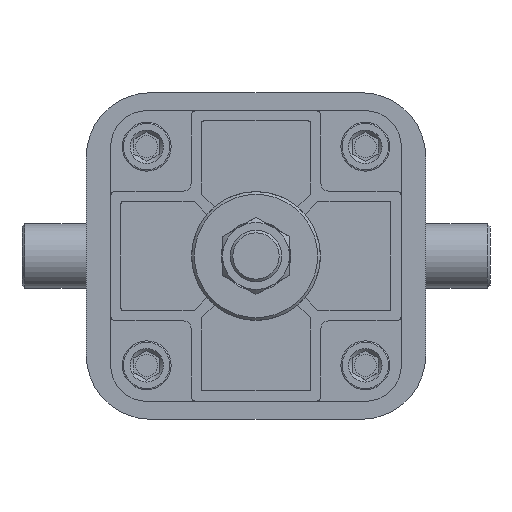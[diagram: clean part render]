
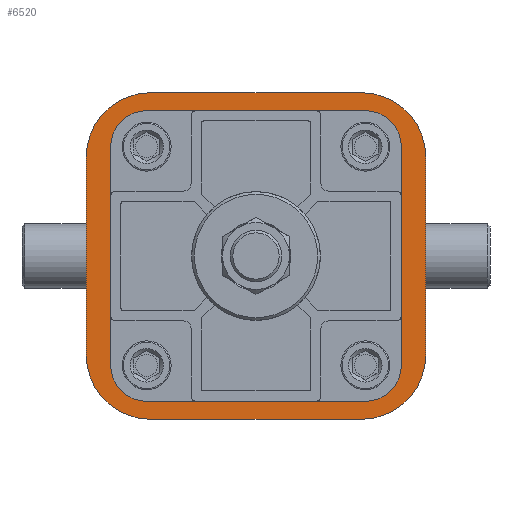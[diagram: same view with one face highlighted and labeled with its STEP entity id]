
A CAD part, front view. The second image highlights one B-rep face of the part: STEP entity #6520.
In plain terms, the highlighted planar face has unit normal (0, -1, 0).
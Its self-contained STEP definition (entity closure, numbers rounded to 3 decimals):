
#576=LINE('',#9858,#950);
#580=LINE('',#9870,#954);
#585=LINE('',#9880,#959);
#589=LINE('',#9921,#963);
#950=VECTOR('',#8373,1000.);
#954=VECTOR('',#8385,1000.);
#959=VECTOR('',#8392,1000.);
#963=VECTOR('',#8442,1000.);
#2193=ORIENTED_EDGE('',*,*,#2829,.F.);
#2194=ORIENTED_EDGE('',*,*,#2827,.F.);
#2195=ORIENTED_EDGE('',*,*,#2825,.F.);
#2196=ORIENTED_EDGE('',*,*,#2823,.F.);
#2197=ORIENTED_EDGE('',*,*,#2822,.T.);
#2198=ORIENTED_EDGE('',*,*,#2820,.F.);
#2199=ORIENTED_EDGE('',*,*,#2837,.T.);
#2200=ORIENTED_EDGE('',*,*,#2838,.F.);
#2201=ORIENTED_EDGE('',*,*,#2832,.T.);
#2202=ORIENTED_EDGE('',*,*,#2815,.F.);
#2203=ORIENTED_EDGE('',*,*,#2813,.T.);
#2204=ORIENTED_EDGE('',*,*,#2809,.F.);
#2205=ORIENTED_EDGE('',*,*,#2807,.T.);
#2807=EDGE_CURVE('',#3258,#3257,#3486,.F.);
#2809=EDGE_CURVE('',#3258,#3259,#576,.T.);
#2813=EDGE_CURVE('',#3262,#3259,#3488,.F.);
#2815=EDGE_CURVE('',#3262,#3263,#580,.T.);
#2820=EDGE_CURVE('',#3266,#3257,#585,.T.);
#2822=EDGE_CURVE('',#3268,#3268,#3490,.T.);
#2823=EDGE_CURVE('',#3269,#3269,#3491,.F.);
#2825=EDGE_CURVE('',#3271,#3271,#3493,.F.);
#2827=EDGE_CURVE('',#3273,#3273,#3495,.F.);
#2829=EDGE_CURVE('',#3275,#3275,#3497,.F.);
#2832=EDGE_CURVE('',#3278,#3263,#3500,.F.);
#2837=EDGE_CURVE('',#3266,#3280,#3502,.F.);
#2838=EDGE_CURVE('',#3278,#3280,#589,.T.);
#3257=VERTEX_POINT('',#9853);
#3258=VERTEX_POINT('',#9855);
#3259=VERTEX_POINT('',#9859);
#3262=VERTEX_POINT('',#9867);
#3263=VERTEX_POINT('',#9871);
#3266=VERTEX_POINT('',#9879);
#3268=VERTEX_POINT('',#9885);
#3269=VERTEX_POINT('',#9888);
#3271=VERTEX_POINT('',#9893);
#3273=VERTEX_POINT('',#9898);
#3275=VERTEX_POINT('',#9903);
#3278=VERTEX_POINT('',#9910);
#3280=VERTEX_POINT('',#9918);
#3486=CIRCLE('',#7027,25.);
#3488=CIRCLE('',#7031,25.);
#3490=CIRCLE('',#7036,53.5);
#3491=CIRCLE('',#7038,4.25);
#3493=CIRCLE('',#7041,4.25);
#3495=CIRCLE('',#7044,4.25);
#3497=CIRCLE('',#7047,4.25);
#3500=CIRCLE('',#7051,25.);
#3502=CIRCLE('',#7055,25.);
#3877=EDGE_LOOP('',(#2193));
#3878=EDGE_LOOP('',(#2194));
#3879=EDGE_LOOP('',(#2195));
#3880=EDGE_LOOP('',(#2196));
#3881=EDGE_LOOP('',(#2197));
#3882=EDGE_LOOP('',(#2198,#2199,#2200,#2201,#2202,#2203,#2204,#2205));
#4261=FACE_BOUND('',#3877,.T.);
#4262=FACE_BOUND('',#3878,.T.);
#4263=FACE_BOUND('',#3879,.T.);
#4264=FACE_BOUND('',#3880,.T.);
#4265=FACE_BOUND('',#3881,.T.);
#4266=FACE_BOUND('',#3882,.T.);
#4432=PLANE('',#7056);
#6520=ADVANCED_FACE('',(#4261,#4262,#4263,#4264,#4265,#4266),#4432,.F.);
#7027=AXIS2_PLACEMENT_3D('',#9854,#8368,#8369);
#7031=AXIS2_PLACEMENT_3D('',#9866,#8380,#8381);
#7036=AXIS2_PLACEMENT_3D('',#9884,#8397,#8398);
#7038=AXIS2_PLACEMENT_3D('',#9887,#8401,#8402);
#7041=AXIS2_PLACEMENT_3D('',#9892,#8407,#8408);
#7044=AXIS2_PLACEMENT_3D('',#9897,#8413,#8414);
#7047=AXIS2_PLACEMENT_3D('',#9902,#8419,#8420);
#7051=AXIS2_PLACEMENT_3D('',#9909,#8427,#8428);
#7055=AXIS2_PLACEMENT_3D('',#9919,#8438,#8439);
#7056=AXIS2_PLACEMENT_3D('',#9920,#8440,#8441);
#8368=DIRECTION('',(0.,1.,0.));
#8369=DIRECTION('',(0.,0.,1.));
#8373=DIRECTION('',(0.,0.,-1.));
#8380=DIRECTION('',(0.,1.,0.));
#8381=DIRECTION('',(0.,0.,1.));
#8385=DIRECTION('',(-1.,0.,0.));
#8392=DIRECTION('',(1.,0.,0.));
#8397=DIRECTION('',(0.,1.,0.));
#8398=DIRECTION('',(0.,0.,1.));
#8401=DIRECTION('',(0.,1.,0.));
#8402=DIRECTION('',(0.,0.,1.));
#8407=DIRECTION('',(0.,1.,0.));
#8408=DIRECTION('',(0.,0.,1.));
#8413=DIRECTION('',(0.,1.,0.));
#8414=DIRECTION('',(0.,0.,1.));
#8419=DIRECTION('',(0.,1.,0.));
#8420=DIRECTION('',(0.,0.,1.));
#8427=DIRECTION('',(0.,1.,0.));
#8428=DIRECTION('',(0.,0.,1.));
#8438=DIRECTION('',(0.,1.,0.));
#8439=DIRECTION('',(0.,0.,1.));
#8440=DIRECTION('',(0.,1.,0.));
#8441=DIRECTION('',(0.,0.,1.));
#8442=DIRECTION('',(0.,0.,1.));
#9853=CARTESIAN_POINT('',(41.,-20.,63.5));
#9854=CARTESIAN_POINT('',(41.,-20.,38.5));
#9855=CARTESIAN_POINT('',(66.,-20.,38.5));
#9858=CARTESIAN_POINT('',(66.,-20.,40.5));
#9859=CARTESIAN_POINT('',(66.,-20.,-38.5));
#9866=CARTESIAN_POINT('',(41.,-20.,-38.5));
#9867=CARTESIAN_POINT('',(41.,-20.,-63.5));
#9870=CARTESIAN_POINT('',(45.,-20.,-63.5));
#9871=CARTESIAN_POINT('',(-41.,-20.,-63.5));
#9879=CARTESIAN_POINT('',(-41.,-20.,63.5));
#9880=CARTESIAN_POINT('',(-45.,-20.,63.5));
#9884=CARTESIAN_POINT('',(0.,-20.,0.));
#9885=CARTESIAN_POINT('',(0.,-20.,53.5));
#9887=CARTESIAN_POINT('',(42.5,-20.,42.5));
#9888=CARTESIAN_POINT('',(42.5,-20.,46.75));
#9892=CARTESIAN_POINT('',(-42.5,-20.,42.5));
#9893=CARTESIAN_POINT('',(-42.5,-20.,46.75));
#9897=CARTESIAN_POINT('',(-42.5,-20.,-42.5));
#9898=CARTESIAN_POINT('',(-42.5,-20.,-38.25));
#9902=CARTESIAN_POINT('',(42.5,-20.,-42.5));
#9903=CARTESIAN_POINT('',(42.5,-20.,-38.25));
#9909=CARTESIAN_POINT('',(-41.,-20.,-38.5));
#9910=CARTESIAN_POINT('',(-66.,-20.,-38.5));
#9918=CARTESIAN_POINT('',(-66.,-20.,38.5));
#9919=CARTESIAN_POINT('',(-41.,-20.,38.5));
#9920=CARTESIAN_POINT('',(0.,-20.,0.));
#9921=CARTESIAN_POINT('',(-66.,-20.,-40.5));
